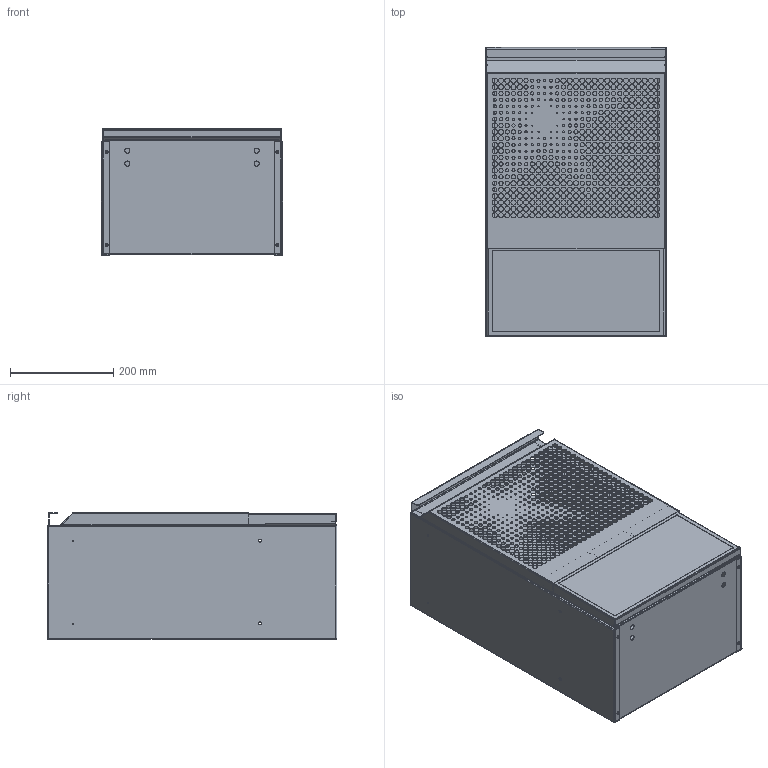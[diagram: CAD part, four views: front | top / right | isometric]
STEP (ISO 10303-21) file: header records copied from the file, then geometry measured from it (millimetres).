
FILE_DESCRIPTION (( 'STEP AP214' ), '1' );
FILE_NAME ('MS-IFU-350-215.STEP', '2024-05-30T12:26:19', ( '' ), ( '' ), 'SwSTEP 2.0', 'SolidWorks 2023', '' );
FILE_SCHEMA (( 'AUTOMOTIVE_DESIGN' ));
Length unit declared in the file: millimetre
Products named in the file (1): MS-IFU-350-215
Bounding box: 350 x 560.31 x 245.11 mm (x, y, z)
Volume: 879105 mm3; surface area: 1813256.2 mm2
Topology: 7 solids, 7 shells, 1877 faces, 5441 edges, 3578 vertices
Faces by surface type: cylinder 1513, plane 304, cone 40, bspline 20
Entity records: 67255 total; most frequent: CARTESIAN_POINT 12242, DIRECTION 12147, ORIENTED_EDGE 10882, EDGE_CURVE 5441, AXIS2_PLACEMENT_3D 4888, VERTEX_POINT 3578, EDGE_LOOP 3203, CIRCLE 3030
